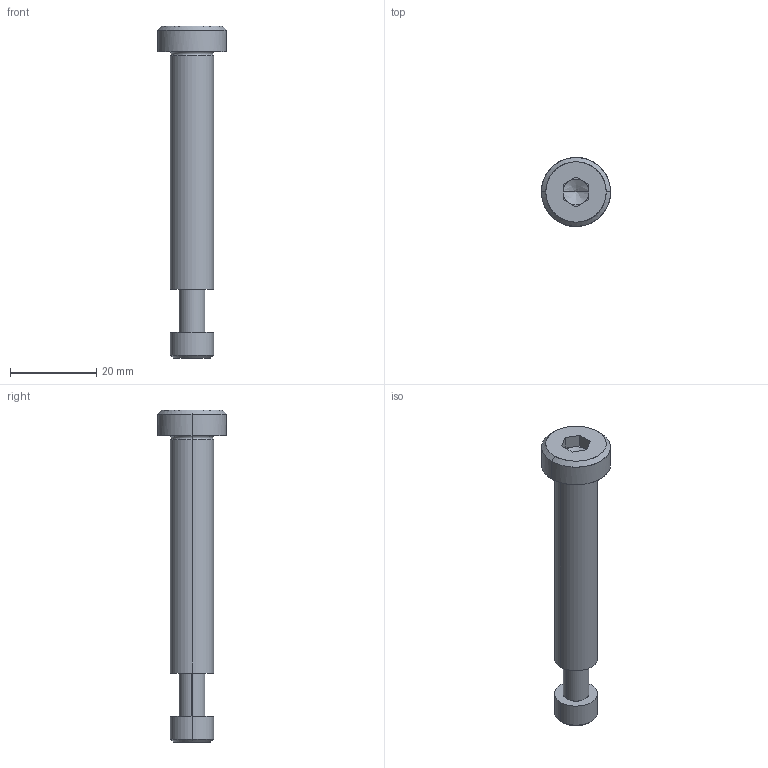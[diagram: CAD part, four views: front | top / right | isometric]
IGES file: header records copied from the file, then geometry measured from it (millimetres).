
Global section: file name: E:\UnigraphicsGraphicData\MISUMI_PRESS-PARTS\IGES\3d_sbtc10-55_05102_r00.igs; native system: NX V5.0; preprocessor: UGS NX IGES V5.0; author: MISUMI; date: 20110105.162443; units: millimetre
Bounding box: 16 x 16 x 77 mm (x, y, z)
Surface area: 3637.2 mm2 (no closed solid volume)
Topology: 0 solids, 0 shells, 52 faces, 280 edges, 276 vertices
Faces by surface type: bspline 52
